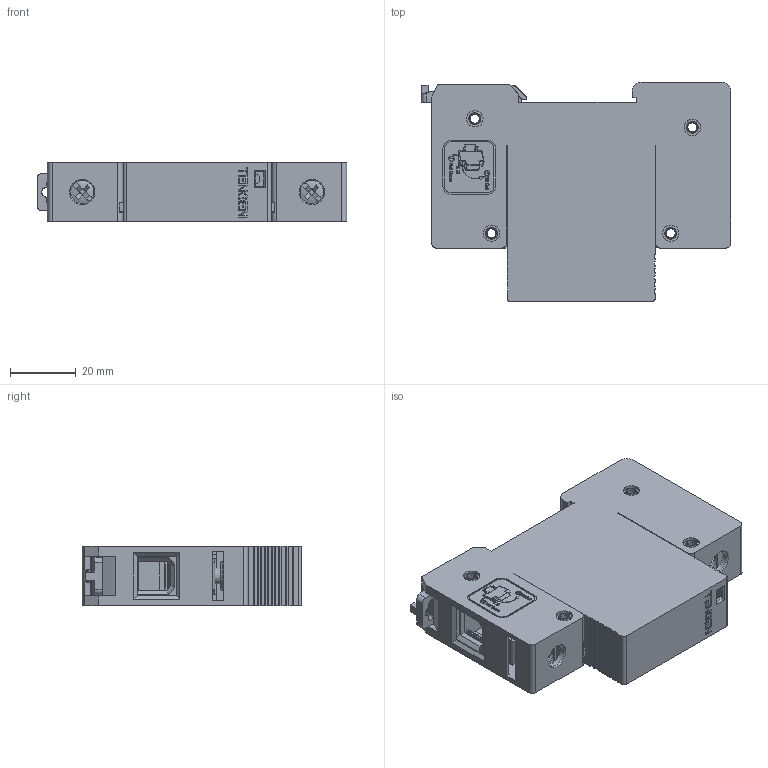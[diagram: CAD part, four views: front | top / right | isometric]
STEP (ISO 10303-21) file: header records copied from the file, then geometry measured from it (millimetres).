
FILE_DESCRIPTION((''),'2;1');
FILE_NAME('TENGEN_TGDY55II_20_40_385V_1P','2024-01-09T14:29:17',('zhanghualong1'),(''),'CREO PARAMETRIC BY PTC INC, 2020354','CREO PARAMETRIC BY PTC INC, 2020354','');
FILE_SCHEMA(('CONFIG_CONTROL_DESIGN'));
Products named in the file (1): TENGEN_TGDY55II_20_40_385V_1P
Bounding box: 94.1 x 66.7 x 18 mm (x, y, z)
Volume: 45664.3 mm3; surface area: 42545.8 mm2
Topology: 9 solids, 11 shells, 2112 faces, 5674 edges, 3685 vertices
Faces by surface type: plane 1457, cylinder 331, extrusion 224, cone 58, torus 36, sphere 4, bspline 2
Entity records: 66894 total; most frequent: CARTESIAN_POINT 14289, ORIENTED_EDGE 11340, DIRECTION 9891, EDGE_CURVE 5670, VECTOR 4613, LINE 4389, VERTEX_POINT 3685, AXIS2_PLACEMENT_3D 2639
